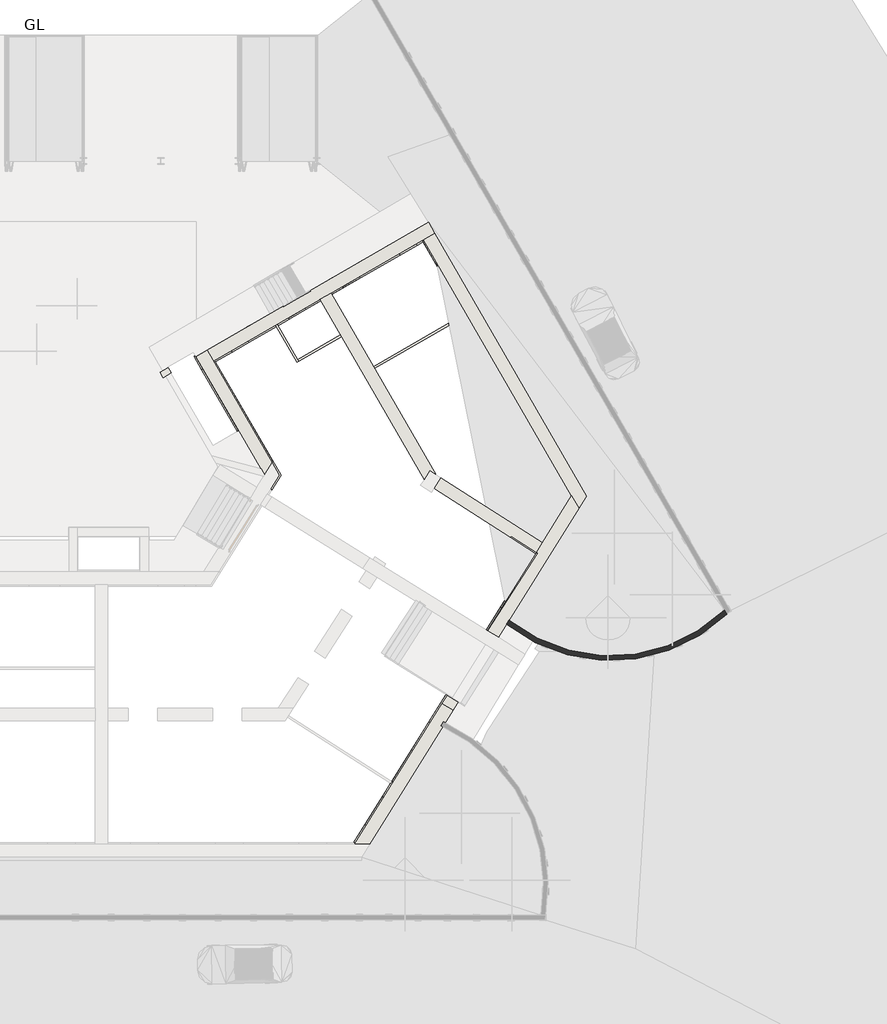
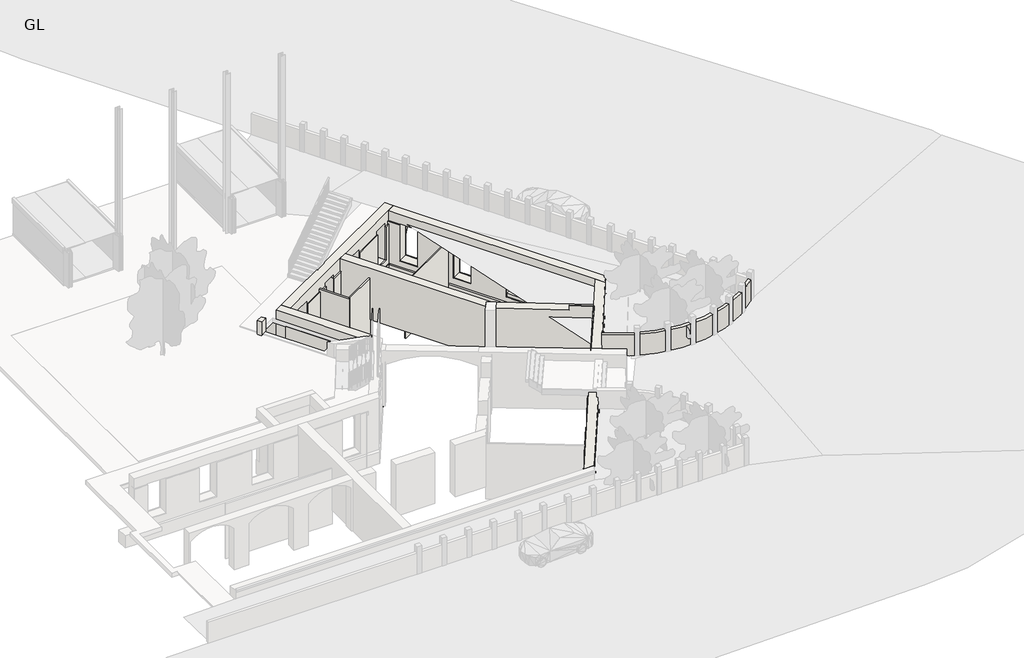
# One storey, part 3 of 6: 38 walls.
"""IFC4 building model written with IfcOpenShell, lengths in millimetres."""

from ifc_helpers import new_model, si_unit, point, frame, frame_2d, origin, origin_with_axes, place, context, project, spatial, polyline, circle_curve, trimmed, segment, composite_curve, outline, extrude, faceted_brep, element, save

model = new_model("IFC4")

# Units and contexts
model_context = context("Model", 3, world=origin())
ifc_project = project(units=[si_unit("LENGTHUNIT", "METRE", prefix="MILLI")], contexts=[model_context])

# Site, building, storey
site = spatial("IfcSite", under=ifc_project)
building = spatial("IfcBuilding", under=site)
storey = spatial("IfcBuildingStorey", under=building, Name="GL", Elevation=0.0)

# Walls
placement = place(None, origin())
element("IfcWall", 1, ObjectType="Wall-Partn_12P-70MStd-12P", at=placement, inside=storey, context=model_context, shape_type="SweptSolid", body=[
    extrude(outline(polyline([(11606.7087824, 19381.6879919), (15958.844634, 21894.3947974), (16006.344634, 21812.122384), (11654.2087824, 19299.4155785), (11606.7087824, 19381.6879919)])), frame((0.0, 0.0, -4000.0), z_axis=(0.0, 0.0, 1.0), x_axis=(1.0, 0.0, 0.0)), (0.0, 0.0, 1.0), 4000.0),
])
element("IfcWall", 2, ObjectType="Wall-Partn_12P-70MStd-12P", at=placement, inside=storey, context=model_context, shape_type="Brep", body=[
    faceted_brep([(6961.6586807, 21292.6884567, -211.0), (6961.6586807, 21292.6884567, -4000.0), (7947.2081317, 19585.666734, -4000.0), (7947.2081317, 19585.666734, 0.0), (6924.1586807, 21357.640362, 0.0), (6924.1586807, 21357.640362, -211.0), (7043.931094, 21340.1884567, -4000.0), (7043.931094, 21340.1884567, -211.0), (7006.431094, 21405.140362, -211.0), (7006.431094, 21405.140362, 0.0), (7981.9805451, 19715.4391474, 0.0), (8029.4805451, 19633.166734, 0.0), (8029.4805451, 19633.166734, -4000.0), (7981.9805451, 19715.4391474, -4000.0)], [[[0, 1, 2, 3, 4, 5]], [[6, 7, 8, 9, 10, 11, 12, 13]], [[2, 1, 6, 13, 12]], [[4, 3, 11, 10, 9]], [[3, 2, 12, 11]], [[5, 8, 7, 0]], [[0, 7, 6, 1]], [[5, 4, 9, 8]]]),
])
element("IfcWall", 3, ObjectType="Wall-Partn_12P-70MStd-12P", at=placement, inside=storey, context=model_context, shape_type="SweptSolid", body=[
    extrude(outline(polyline([(10083.8929912, 20819.2823128), (8029.4805451, 19633.166734), (7981.9805451, 19715.4391474), (10036.3929912, 20901.5547262), (10083.8929912, 20819.2823128)])), frame((0.0, 0.0, -4000.0), z_axis=(0.0, 0.0, 1.0), x_axis=(1.0, 0.0, 0.0)), (0.0, 0.0, 1.0), 4000.0),
])
element("IfcWall", 4, ObjectType="Wall-Ext_215Bwk", at=placement, inside=storey, context=model_context, shape_type="SweptSolid", body=[
    extrude(outline(composite_curve([segment(polyline([(17956.3097907, 7100.3203589), (18070.7151122, 7283.9637916)]), True, "CONTINUOUS"), segment(trimmed(circle_curve(frame_2d((22935.6449008, 13411.501926)), 7823.9545906), [point((18070.7151122, 7283.9637916))], [point((28356.948433, 7770.2490999))], True, "CARTESIAN"), True, "CONTINUOUS"), segment(polyline([(28356.948433, 7770.2490999), (28467.5827329, 7578.6248715)]), True, "CONTINUOUS"), segment(trimmed(circle_curve(frame_2d((22935.6449008, 13411.501926)), 8038.9545906), [point((28467.5827329, 7578.6248715))], [point((17956.3097907, 7100.3203589))], False, "CARTESIAN"), True, "CONTINUOUS")], self_intersect=False)), origin_with_axes(), (0.0, 0.0, 1.0), 1500.0),
])
element("IfcWall", 5, ObjectType="Wall-Fnd_750Con_Footing", at=placement, inside=storey, context=model_context, shape_type="Brep", body=[
    faceted_brep([(3404.5847078, 19239.0108409, -4000.0), (4054.1037606, 19614.0108409, -4000.0), (6961.6586807, 21292.6884567, -4000.0), (7043.931094, 21340.1884567, -4000.0), (13970.094634, 25339.0108409, -4000.0), (14619.6136868, 25714.0108409, -4000.0), (14619.6136868, 25714.0108409, -3140.0), (13970.094634, 25339.0108409, -3140.0), (4054.1037606, 19614.0108409, -3140.0), (3404.5847078, 19239.0108409, -3140.0), (14244.6136868, 26363.5298938, -4000.0), (3029.5847078, 19888.5298938, -4000.0), (3029.5847078, 19888.5298938, -3140.0), (14244.6136868, 26363.5298938, -3140.0)], [[[0, 1, 2, 3, 4, 5, 6, 7, 8, 9]], [[10, 11, 12, 13]], [[5, 10, 13, 6]], [[9, 8, 7, 6, 13, 12]], [[11, 0, 9, 12]], [[5, 4, 3, 2, 1, 0, 11, 10]]]),
    faceted_brep([(14035.0465393, 25376.5108409, -211.0), (13970.094634, 25339.0108409, -211.0), (13692.8644056, 25178.9518939, -211.0), (13692.8644056, 25178.9518939, -2600.0), (12861.480018, 24698.9518939, -2600.0), (12861.480018, 24698.9518939, -211.0), (10990.5069482, 23618.7450885, -211.0), (10990.5069482, 23618.7450885, -2600.0), (10159.1225606, 23138.7450885, -2600.0), (10159.1225606, 23138.7450885, -211.0), (8392.4307369, 22118.7450885, -211.0), (8392.4307369, 22118.7450885, -2811.0), (7561.0463492, 21638.7450885, -2811.0), (7561.0463492, 21638.7450885, -211.0), (7043.931094, 21340.1884567, -211.0), (6961.6586807, 21292.6884567, -211.0), (5673.4691666, 20548.9518939, -211.0), (5673.4691666, 20548.9518939, -2600.0), (4842.0847789, 20068.9518939, -2600.0), (4842.0847789, 20068.9518939, -211.0), (4054.1037606, 19614.0108409, -211.0), (3989.1518554, 19576.5108409, -211.0), (3989.1518554, 19576.5108409, -3000.0), (4054.1037606, 19614.0108409, -3000.0), (13970.094634, 25339.0108409, -3000.0), (14035.0465393, 25376.5108409, -3000.0), (13317.8644056, 25828.4709468, -211.0), (13660.0465393, 26026.0298938, -211.0), (13660.0465393, 26026.0298938, -3000.0), (3614.1518554, 20226.0298938, -3000.0), (3614.1518554, 20226.0298938, -211.0), (4467.0847789, 20718.4709468, -211.0), (4467.0847789, 20718.4709468, -2600.0), (5298.4691666, 21198.4709468, -2600.0), (5298.4691666, 21198.4709468, -211.0), (7186.0463492, 22288.2641413, -211.0), (7186.0463492, 22288.2641413, -2811.0), (8017.4307369, 22768.2641413, -2811.0), (8017.4307369, 22768.2641413, -211.0), (9784.1225606, 23788.2641413, -211.0), (9784.1225606, 23788.2641413, -2600.0), (10615.5069482, 24268.2641413, -2600.0), (10615.5069482, 24268.2641413, -211.0), (12486.480018, 25348.4709468, -211.0), (12486.480018, 25348.4709468, -2600.0), (13317.8644056, 25828.4709468, -2600.0)], [[[0, 1, 2, 3, 4, 5, 6, 7, 8, 9, 10, 11, 12, 13, 14, 15, 16, 17, 18, 19, 20, 21, 22, 23, 24, 25]], [[26, 27, 28, 29, 30, 31, 32, 33, 34, 35, 36, 37, 38, 39, 40, 41, 42, 43, 44, 45]], [[25, 24, 23, 22, 29, 28]], [[0, 25, 28, 27]], [[22, 21, 30, 29]], [[2, 1, 0, 27, 26]], [[3, 2, 26, 45]], [[4, 3, 45, 44]], [[5, 4, 44, 43]], [[6, 5, 43, 42]], [[7, 6, 42, 41]], [[8, 7, 41, 40]], [[9, 8, 40, 39]], [[10, 9, 39, 38]], [[11, 10, 38, 37]], [[12, 11, 37, 36]], [[13, 12, 36, 35]], [[16, 15, 14, 13, 35, 34]], [[17, 16, 34, 33]], [[18, 17, 33, 32]], [[19, 18, 32, 31]], [[21, 20, 19, 31, 30]]]),
])
element("IfcWall", 6, ObjectType="Wall-Fnd_750Con_Footing", at=placement, inside=storey, context=model_context, shape_type="Brep", body=[
    faceted_brep([(21012.6093807, 13141.0174865, 0.0), (20970.1071545, 13214.6335018, 0.0), (20470.3213322, 14080.2879389, 0.0), (20470.3213322, 14080.2879389, -2543.3553846), (19762.6284634, 15306.0479439, -2543.3553846), (19762.6284634, 15306.0479439, 0.0), (18612.6707102, 17297.8331988, 0.0), (18612.6707102, 17297.8331988, -2669.7609259), (17980.2784293, 18393.1687596, -2669.7609259), (17980.2784293, 18393.1687596, 0.0), (16780.3546143, 20471.4977725, 0.0), (16780.3546143, 20471.4977725, -2559.434172), (16174.9876446, 21520.0241213, -2559.434172), (16174.9876446, 21520.0241213, 0.0), (16006.344634, 21812.122384, 0.0), (15958.844634, 21894.3947974, 0.0), (14966.9562362, 23612.3958978, 0.0), (14966.9562362, 23612.3958978, -2603.7391977), (14339.9690175, 24698.3696162, -2603.7391977), (14339.9690175, 24698.3696162, 0.0), (13932.594634, 25403.9627462, 0.0), (13932.594634, 25403.9627462, -211.0), (13970.094634, 25339.0108409, -211.0), (13970.094634, 25339.0108409, -3000.0), (20970.1071545, 13214.6335018, -3000.0), (21012.6093807, 13141.0174865, -3000.0), (21119.840385, 14455.2879389, 0.0), (21462.08113, 13862.5095801, 0.0), (21462.08113, 13862.5095801, -3000.0), (14619.6136868, 25714.0108409, -3000.0), (14619.6136868, 25714.0108409, -211.0), (14582.1136868, 25778.9627462, -211.0), (14582.1136868, 25778.9627462, 0.0), (14989.4880704, 25073.3696162, 0.0), (14989.4880704, 25073.3696162, -2603.7391977), (15616.475289, 23987.3958978, -2603.7391977), (15616.475289, 23987.3958978, 0.0), (16824.5066974, 21895.0241213, 0.0), (16824.5066974, 21895.0241213, -2559.434172), (17429.8736672, 20846.4977725, -2559.434172), (17429.8736672, 20846.4977725, 0.0), (18629.7974822, 18768.1687596, 0.0), (18629.7974822, 18768.1687596, -2669.7609259), (19262.1897631, 17672.8331988, -2669.7609259), (19262.1897631, 17672.8331988, 0.0), (20412.1475162, 15681.0479439, 0.0), (20412.1475162, 15681.0479439, -2543.3553846), (21119.840385, 14455.2879389, -2543.3553846), (14035.0465393, 25376.5108409, -3000.0), (14035.0465393, 25376.5108409, -211.0)], [[[0, 1, 2, 3, 4, 5, 6, 7, 8, 9, 10, 11, 12, 13, 14, 15, 16, 17, 18, 19, 20, 21, 22, 23, 24, 25]], [[26, 27, 28, 29, 30, 31, 32, 33, 34, 35, 36, 37, 38, 39, 40, 41, 42, 43, 44, 45, 46, 47]], [[0, 25, 28, 27]], [[25, 24, 23, 48, 29, 28]], [[22, 49, 30, 29, 48, 23]], [[21, 20, 32, 31]], [[2, 1, 0, 27, 26]], [[3, 2, 26, 47]], [[4, 3, 47, 46]], [[5, 4, 46, 45]], [[6, 5, 45, 44]], [[7, 6, 44, 43]], [[8, 7, 43, 42]], [[9, 8, 42, 41]], [[10, 9, 41, 40]], [[11, 10, 40, 39]], [[12, 11, 39, 38]], [[13, 12, 38, 37]], [[16, 15, 14, 13, 37, 36]], [[17, 16, 36, 35]], [[18, 17, 35, 34]], [[19, 18, 34, 33]], [[20, 19, 33, 32]], [[31, 30, 49, 22, 21]]]),
    faceted_brep([(13970.094634, 25339.0108409, -4000.0), (15958.844634, 21894.3947974, -4000.0), (16006.344634, 21812.122384, -4000.0), (20970.1071545, 13214.6335018, -4000.0), (21395.129417, 12478.4733487, -4000.0), (21395.129417, 12478.4733487, -3470.0), (21395.129417, 12478.4733487, -3140.0), (13970.094634, 25339.0108409, -3140.0), (21844.6011663, 13199.9654424, -4000.0), (14619.6136868, 25714.0108409, -4000.0), (14619.6136868, 25714.0108409, -3470.0), (14619.6136868, 25714.0108409, -3140.0), (21844.6011663, 13199.9654424, -3140.0)], [[[0, 1, 2, 3, 4, 5, 6, 7]], [[8, 9, 10, 11, 12]], [[4, 8, 12, 6, 5]], [[7, 6, 12, 11]], [[9, 0, 7, 11, 10]], [[4, 3, 2, 1, 0, 9, 8]]]),
])
element("IfcWall", 7, ObjectType="Wall-Fnd_750Con_Footing", at=placement, inside=storey, context=model_context, shape_type="Brep", body=[
    faceted_brep([(7179.2651267, 14201.072573, -4000.0), (4054.1037606, 19614.0108409, -4000.0), (4054.1037606, 19614.0108409, -3140.0), (7179.2651267, 14201.072573, -3140.0), (3404.5847078, 19239.0108409, -4000.0), (6304.4233417, 14216.3429932, -4000.0), (6729.1371107, 13480.7171666, -4000.0), (6729.1371107, 13480.7171666, -3470.0), (6729.1371107, 13480.7171666, -3140.0), (3404.5847078, 19239.0108409, -3140.0), (3404.5847078, 19239.0108409, -3470.0)], [[[0, 1, 2, 3]], [[4, 5, 6, 7, 8, 9, 10]], [[1, 0, 6, 5, 4]], [[6, 0, 3, 8, 7]], [[3, 2, 9, 8]], [[1, 4, 10, 9, 2]]]),
    faceted_brep([(4054.1037606, 19614.0108409, -211.0), (6797.0227346, 14863.135817, -211.0), (6797.0227346, 14863.135817, -3000.0), (4054.1037606, 19614.0108409, -3000.0), (6346.8947186, 14142.7804105, -211.0), (6304.4233417, 14216.3429932, -211.0), (3404.5847078, 19239.0108409, -211.0), (3404.5847078, 19239.0108409, -3000.0), (6304.4233417, 14216.3429932, -3000.0), (6346.8947186, 14142.7804105, -3000.0), (3989.1518554, 19576.5108409, -211.0), (3989.1518554, 19576.5108409, -3000.0)], [[[0, 1, 2, 3]], [[4, 5, 6, 7, 8, 9]], [[1, 0, 10, 6, 5, 4]], [[1, 4, 9, 2]], [[3, 2, 9, 8, 7, 11]], [[6, 10, 0, 3, 11, 7]]]),
])
element("IfcWall", 8, ObjectType="Wall-Fnd_750Con_Footing", at=placement, inside=storey, context=model_context, shape_type="Brep", body=[
    faceted_brep([(11195.6159284, -2475.3807197, -2600.0), (12032.3314751, -1132.2848466, -2600.0), (12032.3314751, -1132.2848466, 0.0), (12425.8715825, -500.5742297, 0.0), (12476.1074884, -419.9355489, 0.0), (13416.4188292, 1089.4523025, 0.0), (13416.4188292, 1089.4523025, -2600.0), (14253.1343759, 2432.5481755, -2600.0), (14253.1343759, 2432.5481755, 0.0), (15347.8762093, 4189.8278679, 0.0), (15653.4121125, 4680.2741279, -2250.8800306), (15653.4121125, 4680.2741279, -3000.0), (10660.1123118, -3334.9711746, -3000.0), (10660.1123118, -3334.9711746, 0.0), (11195.6159284, -2475.3807197, 0.0), (12668.9088004, -1528.8567932, -2600.0), (11832.1932537, -2871.9526662, -2600.0), (11832.1932537, -2871.9526662, 0.0), (11543.7441623, -3334.9711746, 0.0), (11543.7441623, -3334.9711746, -3000.0), (16289.9894378, 4283.7021814, -3000.0), (16289.9894378, 4283.7021814, -2250.8800306), (15984.4535347, 3793.2559213, 0.0), (14889.7117013, 2035.976229, 0.0), (14889.7117013, 2035.976229, -2600.0), (14052.9961546, 692.8803559, -2600.0), (14052.9961546, 692.8803559, 0.0), (12668.9088004, -1528.8567932, 0.0), (10748.4754968, -3334.9711746, 0.0), (10748.4754968, -3334.9711746, -3000.0)], [[[0, 1, 2, 3, 4, 5, 6, 7, 8, 9, 10, 11, 12, 13, 14]], [[15, 16, 17, 18, 19, 20, 21, 22, 23, 24, 25, 26, 27]], [[18, 28, 13, 12, 29, 19]], [[12, 11, 20, 19, 29]], [[0, 16, 15, 1]], [[1, 15, 27, 2]], [[16, 0, 14, 17]], [[6, 25, 24, 7]], [[7, 24, 23, 8]], [[25, 6, 5, 26]], [[14, 13, 28, 18, 17]], [[9, 8, 23, 22]], [[5, 4, 3, 2, 27, 26]], [[10, 9, 22, 21]], [[11, 10, 21, 20]]]),
    faceted_brep([(16088.717743, 5379.0267664, -3000.0), (16088.717743, 5379.0267664, -2250.8800306), (16397.0963732, 5874.0361722, 0.0), (17655.2916747, 7893.6913866, 0.0), (17655.2916747, 7893.6913866, -2441.9482203), (18492.0072214, 9236.7872597, -2441.9482203), (18492.0072214, 9236.7872597, 0.0), (19745.0761633, 11248.2136412, 0.0), (19745.0761633, 11248.2136412, -2441.9482203), (20581.79171, 12591.3095143, -2441.9482203), (20581.79171, 12591.3095143, 0.0), (20970.1071545, 13214.6335018, 0.0), (20970.1071545, 13214.6335018, -3000.0), (16725.2950684, 4982.4548198, -2250.8800306), (16725.2950684, 4982.4548198, -3000.0), (21395.129417, 12478.4733487, -3000.0), (21395.129417, 12478.4733487, 0.0), (21218.3690353, 12194.7375677, 0.0), (21218.3690353, 12194.7375677, -2441.9482203), (20381.6534886, 10851.6416947, -2441.9482203), (20381.6534886, 10851.6416947, 0.0), (19128.5845467, 8840.2153131, 0.0), (19128.5845467, 8840.2153131, -2441.9482203), (18291.869, 7497.11944, -2441.9482203), (18291.869, 7497.11944, 0.0), (17033.6736986, 5477.4642256, 0.0), (21012.6093807, 13141.0174865, 0.0), (21012.6093807, 13141.0174865, -3000.0)], [[[0, 1, 2, 3, 4, 5, 6, 7, 8, 9, 10, 11, 12]], [[13, 14, 15, 16, 17, 18, 19, 20, 21, 22, 23, 24, 25]], [[11, 26, 16, 15, 27, 12]], [[0, 12, 27, 15, 14]], [[1, 0, 14, 13]], [[2, 1, 13, 25]], [[3, 2, 25, 24]], [[4, 3, 24, 23]], [[5, 4, 23, 22]], [[6, 5, 22, 21]], [[7, 6, 21, 20]], [[8, 7, 20, 19]], [[9, 8, 19, 18]], [[10, 9, 18, 17]], [[11, 10, 17, 16, 26]]]),
    faceted_brep([(20970.1071545, 13214.6335018, -4000.0), (12476.1074884, -419.9355489, -4000.0), (12425.8715825, -500.5742297, -4000.0), (10660.1123118, -3334.9711746, -4000.0), (10660.1123118, -3334.9711746, -3140.0), (20970.1071545, 13214.6335018, -3140.0), (11543.7441623, -3334.9711746, -4000.0), (21395.129417, 12478.4733487, -4000.0), (21395.129417, 12478.4733487, -3140.0), (11543.7441623, -3334.9711746, -3140.0), (11543.7441623, -3334.9711746, -3470.0)], [[[0, 1, 2, 3, 4, 5]], [[6, 7, 8, 9, 10]], [[3, 6, 10, 9, 4]], [[7, 0, 5, 8]], [[5, 4, 9, 8]], [[3, 2, 1, 0, 7, 6]]]),
])
element("IfcWall", 9, ObjectType="Wall-Ret_300Con", at=placement, inside=storey, context=model_context, shape_type="Brep", body=[
    faceted_brep([(1796.7038634, 19340.4183513, -3000.0), (1406.9924317, 19115.4183513, -3000.0), (1406.9924317, 19115.4183513, 1006.051607), (1796.7038634, 19340.4183513, 1006.051607), (1946.7038634, 19080.6107302, -3000.0), (1946.7038634, 19080.6107302, 700.0), (1946.7038634, 19080.6107302, 1006.051607), (1556.9924317, 18855.6107302, 1006.051607), (1556.9924317, 18855.6107302, -3000.0), (1686.8962423, 18930.6107302, -3000.0)], [[[0, 1, 2, 3]], [[4, 5, 6, 7, 8, 9]], [[1, 0, 4, 9, 8]], [[2, 1, 8, 7]], [[3, 2, 7, 6]], [[0, 3, 6, 5, 4]]]),
])
element("IfcWall", 10, ObjectType="Wall-Ret_300Con 2", at=placement, inside=storey, context=model_context, shape_type="SweptSolid", body=[
    extrude(outline(polyline([(0.0, 0.0), (279.4555074, 0.0), (1746.1486421, -2758.4485951), (0.0, -2758.4485951), (0.0, 0.0)])), frame((17778.9010724, 7385.1256333, -2758.4485951), z_axis=(0.5386867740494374, 0.8425061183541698, 0.0), x_axis=(0.8425061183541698, -0.5386867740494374, 0.0)), (0.0, 0.0, 1.0), 200.0),
])
element("IfcWall", 11, ObjectType="Wall-Ret_300Con 2", at=placement, inside=storey, context=model_context, shape_type="SweptSolid", body=[
    extrude(outline(polyline([(0.0, 0.0), (265.4050039, 0.0), (1708.2251898, -2766.3292278), (0.0, -2766.3292278), (0.0, 0.0)])), frame((18890.2949407, 9166.9157795, -2766.3292278), z_axis=(0.5287625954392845, 0.8487697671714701, 0.0), x_axis=(0.8487697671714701, -0.5287625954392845, 0.0)), (0.0, 0.0, 1.0), 200.0),
])
element("IfcWall", 12, ObjectType="Wall-Ret_300Con 2", at=placement, inside=storey, context=model_context, shape_type="SweptSolid", body=[
    extrude(outline(polyline([(0.0, 0.0), (136.0639676, 0.0), (1657.4952434, -2763.1736694), (0.0, -2763.1736694), (0.0, 0.0)])), frame((19789.1913529, 10609.8243837, -2763.1736694), z_axis=(0.5287625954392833, 0.8487697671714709, 0.0), x_axis=(0.8487697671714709, -0.5287625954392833, 0.0)), (0.0, 0.0, 1.0), 200.0),
])
element("IfcWall", 13, ObjectType="Wall-Ret_300Con 2", at=placement, inside=storey, context=model_context, shape_type="SweptSolid", body=[
    extrude(outline(polyline([(0.0, 0.0), (123.9723571, 0.0), (1657.4952434, -2785.1340562), (0.0, -2785.1340562), (0.0, 0.0)])), frame((20980.0794293, 12521.4380341, -2785.1340562), z_axis=(0.5287625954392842, 0.8487697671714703, 0.0), x_axis=(0.8487697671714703, -0.5287625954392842, 0.0)), (0.0, 0.0, 1.0), 200.0),
])
element("IfcWall", 14, ObjectType="Wall-Ret_300Con 2", at=placement, inside=storey, context=model_context, shape_type="SweptSolid", body=[
    extrude(outline(polyline([(-2785.1340562, 21403.6990249), (-2785.1340562, 21630.1389426), (0.0, 23390.9373433), (0.0, 21403.6990249), (-2785.1340562, 21403.6990249)])), frame((0.0, 13101.4322483, 0.0), z_axis=(0.0, 1.0, 0.0), x_axis=(0.0, 0.0, 1.0)), (0.0, 0.0, 1.0), 200.0),
])
element("IfcWall", 15, ObjectType="Wall-Ret_300Con 2", at=placement, inside=storey, context=model_context, shape_type="SweptSolid", body=[
    extrude(outline(polyline([(0.0, 0.0), (254.5338017, 0.0), (1742.5233286, -2785.1), (0.0, -2785.1), (0.0, 0.0)])), frame((21028.8445928, 13862.8972744, -2785.1), z_axis=(-0.499999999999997, 0.8660254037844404, 0.0), x_axis=(0.8660254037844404, 0.499999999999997, 0.0)), (0.0, 0.0, 1.0), 200.0),
])
element("IfcWall", 16, ObjectType="Wall-Ret_300Con 2", at=placement, inside=storey, context=model_context, shape_type="SweptSolid", body=[
    extrude(outline(polyline([(0.0, 0.0), (254.5338017, 0.0), (1742.5233286, -2785.1), (0.0, -2785.1), (0.0, 0.0)])), frame((19958.8149493, 15716.2429825, -2785.1), z_axis=(-0.4999999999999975, 0.86602540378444, 0.0), x_axis=(0.86602540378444, 0.4999999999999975, 0.0)), (0.0, 0.0, 1.0), 200.0),
])
element("IfcWall", 17, ObjectType="Wall-Ret_300Con 2", at=placement, inside=storey, context=model_context, shape_type="SweptSolid", body=[
    extrude(outline(polyline([(0.0, 0.0), (254.5338018, 0.0), (1742.5233286, -2785.1), (0.0, -2785.1), (0.0, 0.0)])), frame((19188.2551371, 17050.8917274, -2785.1), z_axis=(-0.49999999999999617, 0.866025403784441, 0.0), x_axis=(0.866025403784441, 0.49999999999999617, 0.0)), (0.0, 0.0, 1.0), 200.0),
])
element("IfcWall", 18, ObjectType="Wall-Ret_300Con 2", at=placement, inside=storey, context=model_context, shape_type="SweptSolid", body=[
    extrude(outline(polyline([(0.0, 0.0), (254.5338018, 0.0), (1742.5233286, -2785.1), (0.0, -2785.1), (0.0, 0.0)])), frame((18150.7298232, 18847.9382852, -2785.1), z_axis=(-0.4999999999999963, 0.8660254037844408, 0.0), x_axis=(0.8660254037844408, 0.4999999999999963, 0.0)), (0.0, 0.0, 1.0), 200.0),
])
element("IfcWall", 19, ObjectType="Wall-Ret_300Con 2", at=placement, inside=storey, context=model_context, shape_type="SweptSolid", body=[
    extrude(outline(polyline([(0.0, 0.0), (254.5338017, 0.0), (1742.5233286, -2785.1), (0.0, -2785.1), (0.0, 0.0)])), frame((17376.0736174, 20189.6821922, -2785.1), z_axis=(-0.49999999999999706, 0.8660254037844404, 0.0), x_axis=(0.8660254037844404, 0.49999999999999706, 0.0)), (0.0, 0.0, 1.0), 200.0),
])
element("IfcWall", 20, ObjectType="Wall-Ret_300Con 2", at=placement, inside=storey, context=model_context, shape_type="SweptSolid", body=[
    extrude(outline(polyline([(0.0, 0.0), (254.5338017, 0.0), (1742.5233287, -2785.1), (0.0, -2785.1), (0.0, 0.0)])), frame((16303.6329335, 22047.2039447, -2785.1), z_axis=(-0.4999999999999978, 0.8660254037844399, 0.0), x_axis=(0.8660254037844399, 0.4999999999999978, 0.0)), (0.0, 0.0, 1.0), 200.0),
])
element("IfcWall", 21, ObjectType="Wall-Ret_300Con 2", at=placement, inside=storey, context=model_context, shape_type="SweptSolid", body=[
    extrude(outline(polyline([(0.0, 0.0), (254.5338018, 0.0), (1742.5233286, -2785.1), (0.0, -2785.1), (0.0, 0.0)])), frame((15567.6801477, 23321.9115617, -2785.1), z_axis=(-0.499999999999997, 0.8660254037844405, 0.0), x_axis=(0.8660254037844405, 0.499999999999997, 0.0)), (0.0, 0.0, 1.0), 200.0),
])
element("IfcWall", 22, ObjectType="Wall-Ret_300Con 2", at=placement, inside=storey, context=model_context, shape_type="SweptSolid", body=[
    extrude(outline(polyline([(0.0, 0.0), (254.5338017, 0.0), (1742.5233286, -2785.1), (0.0, -2785.1), (0.0, 0.0)])), frame((14507.3541604, 25158.4500443, -2785.1), z_axis=(-0.5000000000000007, 0.8660254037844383, 0.0), x_axis=(0.8660254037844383, 0.5000000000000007, 0.0)), (0.0, 0.0, 1.0), 200.0),
])
element("IfcWall", 23, ObjectType="Wall-Ret_300Con 2", at=placement, inside=storey, context=model_context, shape_type="SweptSolid", body=[
    extrude(outline(polyline([(-366.1431166, 0.0), (0.0, 0.0), (2150.9692318, -2785.1), (-366.1431166, -2785.1), (-366.1431166, 0.0)])), frame((14298.2913169, 26173.1142327, -2785.1), z_axis=(-0.9702957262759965, 0.24192189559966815, 0.0), x_axis=(0.24192189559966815, 0.9702957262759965, 0.0)), (0.0, 0.0, 1.0), 200.0),
])
element("IfcWall", 24, ObjectType="Wall-Ret_300Con 2", at=placement, inside=storey, context=model_context, shape_type="SweptSolid", body=[
    extrude(outline(polyline([(0.0, 0.0), (0.0, -2785.1), (-1800.0, -2785.1), (-252.7222223, 0.0), (0.0, 0.0)])), frame((13812.9055231, 25681.2703673, -2785.1), z_axis=(0.8660254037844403, 0.4999999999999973, 0.0), x_axis=(0.4999999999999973, -0.8660254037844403, 0.0)), (0.0, 0.0, 1.0), 200.0),
])
element("IfcWall", 25, ObjectType="Wall-Ret_300Con 2", at=placement, inside=storey, context=model_context, shape_type="SweptSolid", body=[
    extrude(outline(polyline([(0.0, 0.0), (0.0, -2785.1), (-1800.0, -2785.1), (-252.7222223, 0.0), (0.0, 0.0)])), frame((12323.3418286, 24821.2703673, -2785.1), z_axis=(0.8660254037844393, 0.49999999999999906, 0.0), x_axis=(0.49999999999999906, -0.8660254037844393, 0.0)), (0.0, 0.0, 1.0), 200.0),
])
element("IfcWall", 26, ObjectType="Wall-Ret_300Con 2", at=placement, inside=storey, context=model_context, shape_type="SweptSolid", body=[
    extrude(outline(polyline([(0.0, 0.0), (0.0, -2785.1), (-1800.0, -2785.1), (-252.7222223, 0.0), (0.0, 0.0)])), frame((11041.624231, 24081.2703673, -2785.1), z_axis=(0.8660254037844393, 0.499999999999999, 0.0), x_axis=(0.499999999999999, -0.8660254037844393, 0.0)), (0.0, 0.0, 1.0), 200.0),
])
element("IfcWall", 27, ObjectType="Wall-Ret_300Con 2", at=placement, inside=storey, context=model_context, shape_type="SweptSolid", body=[
    extrude(outline(polyline([(0.0, 0.0), (0.0, -2785.1), (-1800.0, -2785.1), (-252.7222222, 0.0), (0.0, 0.0)])), frame((9620.9843712, 23261.0635619, -2785.1), z_axis=(0.8660254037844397, 0.49999999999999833, 0.0), x_axis=(0.49999999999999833, -0.8660254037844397, 0.0)), (0.0, 0.0, 1.0), 200.0),
])
element("IfcWall", 28, ObjectType="Wall-Ret_300Con 2", at=placement, inside=storey, context=model_context, shape_type="SweptSolid", body=[
    extrude(outline(polyline([(0.0, 0.0), (0.0, -2785.1), (-1800.0, -2785.1), (-252.7222222, 0.0), (0.0, 0.0)])), frame((8443.1898221, 22581.0635619, -2785.1), z_axis=(0.8660254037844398, 0.499999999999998, 0.0), x_axis=(0.499999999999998, -0.8660254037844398, 0.0)), (0.0, 0.0, 1.0), 200.0),
])
element("IfcWall", 29, ObjectType="Wall-Ret_300Con 2", at=placement, inside=storey, context=model_context, shape_type="SweptSolid", body=[
    extrude(outline(polyline([(0.0, 0.0), (0.0, -2785.1), (-1800.0, -2785.1), (-252.7222222, 0.0), (0.0, 0.0)])), frame((7022.9081599, 21761.0635619, -2785.1), z_axis=(0.8660254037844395, 0.49999999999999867, 0.0), x_axis=(0.49999999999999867, -0.8660254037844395, 0.0)), (0.0, 0.0, 1.0), 200.0),
])
element("IfcWall", 30, ObjectType="Wall-Ret_300Con 2", at=placement, inside=storey, context=model_context, shape_type="SweptSolid", body=[
    extrude(outline(polyline([(0.0, 0.0), (0.0, -2785.1), (-1800.0, -2785.1), (-252.7222222, 0.0), (0.0, 0.0)])), frame((5678.2811883, 20984.7428179, -2785.1), z_axis=(0.8660254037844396, 0.49999999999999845, 0.0), x_axis=(0.49999999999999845, -0.8660254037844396, 0.0)), (0.0, 0.0, 1.0), 200.0),
])
element("IfcWall", 31, ObjectType="Wall-Ret_300Con 2", at=placement, inside=storey, context=model_context, shape_type="SweptSolid", body=[
    extrude(outline(polyline([(0.0, 0.0), (0.0, -2574.1), (-1800.0, -2574.1), (-252.7222223, 0.0), (0.0, 0.0)])), frame((4303.9465896, 20191.2703673, -2785.1), z_axis=(0.8660254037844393, 0.4999999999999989, 0.0), x_axis=(0.4999999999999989, -0.8660254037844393, 0.0)), (0.0, 0.0, 1.0), 200.0),
])
element("IfcWall", 32, ObjectType="Wall-Ret_300Con 2", at=placement, inside=storey, context=model_context, shape_type="SweptSolid", body=[
    extrude(outline(polyline([(0.0, 0.0), (0.0, -2574.1), (-1800.0, -2574.1), (-300.0000001, -85.1), (-268.4814815, 0.0), (0.0, 0.0)])), frame((3333.9981373, 19631.2703673, -2785.1), z_axis=(0.8660254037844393, 0.49999999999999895, 0.0), x_axis=(0.49999999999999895, -0.8660254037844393, 0.0)), (0.0, 0.0, 1.0), 200.0),
])
element("IfcWall", 33, ObjectType="ug wall", at=placement, inside=storey, context=model_context, shape_type="Brep", body=[
    faceted_brep([(6752.009933, 14791.1002763, -3000.0), (6556.6518554, 15129.4703925, -3000.0), (6556.6518554, 15129.4703925, -890.0), (6051.6518554, 16004.1560503, -890.0), (6051.6518554, 16004.1560503, -3000.0), (3951.6518554, 19641.4627462, -3000.0), (3651.6518554, 20161.0779885, -3000.0), (3651.6518554, 20161.0779885, 700.0), (6752.009933, 14791.1002763, 700.0), (6037.0366131, 14829.4703925, -3000.0), (6391.9075202, 14214.8159512, -3000.0), (6391.9075202, 14214.8159512, -211.0), (6391.9075202, 14214.8159512, 700.0), (3132.0366131, 19861.0779885, 700.0), (3132.0366131, 19861.0779885, -3000.0), (5532.0366131, 15704.1560503, -3000.0), (5532.0366131, 15704.1560503, -890.0), (6037.0366131, 14829.4703925, -890.0)], [[[0, 1, 2, 3, 4, 5, 6, 7, 8]], [[9, 10, 11, 12, 13, 14, 15, 16, 17]], [[0, 10, 9, 1]], [[14, 6, 5, 4, 15]], [[10, 0, 8, 12, 11]], [[6, 14, 13, 7]], [[8, 7, 13, 12]], [[17, 2, 1, 9]], [[2, 17, 16, 3]], [[3, 16, 15, 4]]]),
])
element("IfcWall", 34, ObjectType="ug wall", at=placement, inside=storey, context=model_context, shape_type="Brep", body=[
    faceted_brep([(3951.6518554, 19641.4627462, -3000.0), (13997.5465393, 25441.4627462, -3000.0), (14517.1617815, 25741.4627462, -3000.0), (14517.1617815, 25741.4627462, 700.0), (3951.6518554, 19641.4627462, 700.0), (4804.5847789, 20133.9037992, 0.0), (5635.9691666, 20613.9037992, 0.0), (5635.9691666, 20613.9037992, -2600.0), (4804.5847789, 20133.9037992, -2600.0), (7523.5463492, 21703.6969938, 0.0), (8354.9307369, 22183.6969938, 0.0), (8354.9307369, 22183.6969938, -2600.0), (7523.5463492, 21703.6969938, -2600.0), (10121.6225606, 23203.6969938, 0.0), (10953.0069482, 23683.6969938, 0.0), (10953.0069482, 23683.6969938, -2600.0), (10121.6225606, 23203.6969938, -2600.0), (12823.980018, 24763.9037992, 0.0), (13655.3644056, 25243.9037992, 0.0), (13655.3644056, 25243.9037992, -2600.0), (12823.980018, 24763.9037992, -2600.0), (14217.1617815, 26261.0779885, -3000.0), (3651.6518554, 20161.0779885, -3000.0), (3651.6518554, 20161.0779885, 700.0), (14217.1617815, 26261.0779885, 700.0), (5335.9691666, 21133.5190415, 0.0), (4504.5847789, 20653.5190415, 0.0), (4504.5847789, 20653.5190415, -2600.0), (5335.9691666, 21133.5190415, -2600.0), (8054.9307369, 22703.312236, 0.0), (7223.5463492, 22223.312236, 0.0), (7223.5463492, 22223.312236, -2600.0), (8054.9307369, 22703.312236, -2600.0), (10653.0069482, 24203.312236, 0.0), (9821.6225606, 23723.312236, 0.0), (9821.6225606, 23723.312236, -2600.0), (10653.0069482, 24203.312236, -2600.0), (13355.3644056, 25763.5190415, 0.0), (12523.980018, 25283.5190415, 0.0), (12523.980018, 25283.5190415, -2600.0), (13355.3644056, 25763.5190415, -2600.0)], [[[0, 1, 2, 3, 4], [5, 6, 7, 8], [9, 10, 11, 12], [13, 14, 15, 16], [17, 18, 19, 20]], [[21, 22, 23, 24], [25, 26, 27, 28], [29, 30, 31, 32], [33, 34, 35, 36], [37, 38, 39, 40]], [[22, 0, 4, 23]], [[2, 1, 0, 22, 21]], [[6, 5, 26, 25]], [[7, 6, 25, 28]], [[8, 7, 28, 27]], [[5, 8, 27, 26]], [[10, 9, 30, 29]], [[11, 10, 29, 32]], [[12, 11, 32, 31]], [[9, 12, 31, 30]], [[14, 13, 34, 33]], [[15, 14, 33, 36]], [[16, 15, 36, 35]], [[13, 16, 35, 34]], [[18, 17, 38, 37]], [[19, 18, 37, 40]], [[20, 19, 40, 39]], [[17, 20, 39, 38]], [[2, 21, 24, 3]], [[4, 3, 24, 23]]]),
])
element("IfcWall", 35, ObjectType="ug wall", at=placement, inside=storey, context=model_context, shape_type="Brep", body=[
    faceted_brep([(13997.5465393, 25441.4627462, -3000.0), (21057.5565557, 13213.1666959, -3000.0), (21397.5743657, 12624.2385734, -3000.0), (21397.5743657, 12624.2385734, 700.0), (21057.5565557, 13213.1666959, 700.0), (13997.5465393, 25441.4627462, 700.0), (14404.9209228, 24735.8696162, 0.5318271), (15031.9081415, 23649.8958978, 0.5318271), (15031.9081415, 23649.8958978, -2603.7391977), (14404.9209228, 24735.8696162, -2603.7391977), (16239.9395499, 21557.5241213, 23.2246451), (16845.3065196, 20508.9977725, 23.2246451), (16845.3065196, 20508.9977725, -2559.434172), (16239.9395499, 21557.5241213, -2559.434172), (18045.2303346, 18430.6687596, -19.9997702), (18677.6226155, 17335.3331988, -19.9997702), (18677.6226155, 17335.3331988, -2429.7609259), (18045.2303346, 18430.6687596, -2429.7609259), (19827.5803686, 15343.5479439, -4.0227338), (20535.2732375, 14117.7879389, -4.0227338), (20535.2732375, 14117.7879389, -2543.3553846), (19827.5803686, 15343.5479439, -2543.3553846), (21757.1517651, 13201.4322483, -3000.0), (14517.1617815, 25741.4627462, -3000.0), (14517.1617815, 25741.4627462, 700.0), (21757.1517651, 13201.4322483, 700.0), (15551.5233837, 23949.8958978, 0.5318271), (14924.5361651, 25035.8696162, 0.5318271), (14924.5361651, 25035.8696162, -2603.7391977), (15551.5233837, 23949.8958978, -2603.7391977), (17364.9217619, 20808.9977725, 23.2246451), (16759.5547921, 21857.5241213, 23.2246451), (16759.5547921, 21857.5241213, -2559.434172), (17364.9217619, 20808.9977725, -2559.434172), (19197.2378578, 17635.3331988, -19.9997702), (18564.8455769, 18730.6687596, -19.9997702), (18564.8455769, 18730.6687596, -2429.7609259), (19197.2378578, 17635.3331988, -2429.7609259), (21054.8884797, 14417.7879389, -4.0227338), (20347.1956109, 15643.5479439, -4.0227338), (20347.1956109, 15643.5479439, -2543.3553846), (21054.8884797, 14417.7879389, -2543.3553846)], [[[0, 1, 2, 3, 4, 5], [6, 7, 8, 9], [10, 11, 12, 13], [14, 15, 16, 17], [18, 19, 20, 21]], [[22, 23, 24, 25], [26, 27, 28, 29], [30, 31, 32, 33], [34, 35, 36, 37], [38, 39, 40, 41]], [[2, 1, 0, 23, 22]], [[2, 22, 25, 3]], [[23, 0, 5, 24]], [[6, 27, 26, 7]], [[8, 29, 28, 9]], [[27, 6, 9, 28]], [[7, 26, 29, 8]], [[10, 31, 30, 11]], [[12, 33, 32, 13]], [[31, 10, 13, 32]], [[11, 30, 33, 12]], [[14, 35, 34, 15]], [[16, 37, 36, 17]], [[35, 14, 17, 36]], [[15, 34, 37, 16]], [[18, 39, 38, 19]], [[20, 41, 40, 21]], [[39, 18, 21, 40]], [[19, 38, 41, 20]], [[5, 4, 3, 25, 24]]]),
])
element("IfcWall", 36, ObjectType="ug wall", at=placement, inside=storey, context=model_context, shape_type="Brep", body=[
    faceted_brep([(21057.5565557, 13213.1666959, -3000.0), (16152.3754756, 5339.3695718, -3000.0), (16152.3754756, 5339.3695718, -2250.8800306), (16460.7541058, 5834.3789776, 0.0), (16460.7541058, 5834.3789776, 50.0), (16731.968229, 6269.7319134, 50.0), (17049.2264628, 6778.9948596, 50.0), (17049.2264628, 6778.9948596, 700.0), (17049.2264628, 6778.9948596, 1000.0), (19346.8266963, 10467.1029671, 1000.0), (19373.2666467, 10509.5443781, 1000.0), (19373.2666467, 10509.5443781, 700.0), (19664.1061018, 10976.3998983, 700.0), (21057.5565557, 13213.1666959, 700.0), (18555.6649539, 9197.130065, 52.8766234), (17718.9494072, 7854.0341919, 52.8766234), (17718.9494072, 7854.0341919, -2441.9482203), (18555.6649539, 9197.130065, -2441.9482203), (20645.4494425, 12551.6523196, 52.8766234), (19808.7338958, 11208.5564466, 52.8766234), (19808.7338958, 11208.5564466, -2441.9482203), (20645.4494425, 12551.6523196, -2441.9482203), (16661.6373359, 5022.1120145, -3000.0), (21397.5743657, 12624.2385734, -3000.0), (21397.5743657, 12624.2385734, 700.0), (17559.1435041, 6462.7889989, 700.0), (17559.1435041, 6462.7889989, 50.0), (17241.8852703, 5953.5260526, 50.0), (16970.0159661, 5517.1214203, 50.0), (16970.0159661, 5517.1214203, 0.0), (16661.6373359, 5022.1120145, -2250.8800306), (18228.2112675, 7536.7766347, 52.8766234), (19064.9268142, 8879.8725077, 52.8766234), (19064.9268142, 8879.8725077, -2441.9482203), (18228.2112675, 7536.7766347, -2441.9482203), (20317.9957561, 10891.2988893, 52.8766234), (21154.7113028, 12234.3947624, 52.8766234), (21154.7113028, 12234.3947624, -2441.9482203), (20317.9957561, 10891.2988893, -2441.9482203), (19416.7227848, 10481.7591236, 1000.0), (19416.7227848, 10481.7591236, 700.0)], [[[0, 1, 2, 3, 4, 5, 6, 7, 8, 9, 10, 11, 12, 13], [14, 15, 16, 17], [18, 19, 20, 21]], [[22, 23, 24, 25, 26, 27, 28, 29, 30], [31, 32, 33, 34], [35, 36, 37, 38]], [[23, 0, 13, 24]], [[1, 0, 23, 22]], [[2, 1, 22, 30]], [[3, 2, 30, 29]], [[4, 3, 29, 28]], [[10, 9, 8, 39]], [[14, 32, 31, 15]], [[16, 34, 33, 17]], [[32, 14, 17, 33]], [[15, 31, 34, 16]], [[18, 36, 35, 19]], [[20, 38, 37, 21]], [[36, 18, 21, 37]], [[19, 35, 38, 20]], [[40, 7, 25, 24, 13, 12, 11]], [[7, 40, 39, 8]], [[39, 40, 11, 10]], [[6, 5, 4, 28, 27, 26]], [[6, 26, 25, 7]]]),
    faceted_brep([(15411.5339418, 4150.1706732, 50.0), (15411.5339418, 4150.1706732, 0.0), (15717.069845, 4640.6169333, -2250.8800306), (15717.069845, 4640.6169333, -3000.0), (10701.7523498, -3409.9711746, -3000.0), (10701.7523498, -3409.9711746, 700.0), (14882.5038976, 3300.9715972, 700.0), (14882.5038976, 3300.9715972, 50.0), (15199.7647337, 3810.2387208, 50.0), (12101.8815706, -1162.4836196, -0.2535284), (11265.1660239, -2505.5794927, -0.2535284), (11265.1660239, -2505.5794927, -2600.0), (12101.8815706, -1162.4836196, -2600.0), (14322.6844714, 2402.3494025, -105.1751563), (13485.9689247, 1059.2535294, -105.1751563), (13485.9689247, 1059.2535294, -2600.0), (14322.6844714, 2402.3494025, -2600.0), (15920.7958021, 3832.9131159, 0.0), (15920.7958021, 3832.9131159, 50.0), (15707.5841987, 3490.6658304, 50.0), (15390.3233626, 2981.3987069, 50.0), (15390.3233626, 2981.3987069, 700.0), (11408.6578301, -3409.9711746, 700.0), (11408.6578301, -3409.9711746, -3000.0), (16226.3317053, 4323.359376, -3000.0), (16226.3317053, 4323.359376, -2250.8800306), (11774.4278842, -2822.8370499, -0.2535284), (12611.1434309, -1479.7411769, -0.2535284), (12611.1434309, -1479.7411769, -2600.0), (11774.4278842, -2822.8370499, -2600.0), (13995.230785, 741.9959722, -105.1751563), (14831.9463318, 2085.0918453, -105.1751563), (14831.9463318, 2085.0918453, -2600.0), (13995.230785, 741.9959722, -2600.0)], [[[0, 1, 2, 3, 4, 5, 6, 7, 8], [9, 10, 11, 12], [13, 14, 15, 16]], [[17, 18, 19, 20, 21, 22, 23, 24, 25], [26, 27, 28, 29], [30, 31, 32, 33]], [[4, 23, 22, 5]], [[9, 27, 26, 10]], [[11, 29, 28, 12]], [[27, 9, 12, 28]], [[10, 26, 29, 11]], [[13, 31, 30, 14]], [[15, 33, 32, 16]], [[31, 13, 16, 32]], [[14, 30, 33, 15]], [[1, 0, 18, 17]], [[2, 1, 17, 25]], [[3, 2, 25, 24]], [[4, 3, 24, 23]], [[6, 5, 22, 21]], [[0, 8, 7, 20, 19, 18]], [[20, 7, 6, 21]]]),
])
element("IfcWall", 37, ObjectType="ug wall", at=placement, inside=storey, context=model_context, shape_type="Brep", body=[
    faceted_brep([(14478.1384833, 13580.0749565, -3000.0), (19283.6343859, 10507.5072575, -3000.0), (19283.6343859, 10507.5072575, 0.0), (19346.8266963, 10467.1029671, 0.0), (19346.8266963, 10467.1029671, 1000.0), (18148.514524, 11233.2872171, 1000.0), (18148.514524, 11233.2872171, 700.0), (14478.1384833, 13580.0749565, 700.0), (19600.9137914, 11016.8041886, -3000.0), (14801.3505477, 14085.5786275, -3000.0), (14801.3505477, 14085.5786275, 700.0), (19664.1061018, 10976.3998983, 700.0), (19664.1061018, 10976.3998983, 0.0), (19600.9137914, 11016.8041886, 0.0), (19373.2666467, 10509.5443781, 1000.0), (18175.4488627, 11275.412523, 1000.0), (19373.2666467, 10509.5443781, 700.0), (18175.4488627, 11275.412523, 700.0)], [[[0, 1, 2, 3, 4, 5, 6, 7]], [[8, 9, 10, 11, 12, 13]], [[1, 0, 9, 8]], [[5, 4, 14, 15]], [[9, 0, 7, 10]], [[3, 2, 13, 12]], [[1, 8, 13, 2]], [[4, 3, 12, 11, 16, 14]], [[6, 17, 16, 11, 10, 7]], [[17, 15, 14, 16]], [[15, 17, 6, 5]]]),
])
element("IfcWall", 38, ObjectType="ug wall", at=placement, inside=storey, context=model_context, shape_type="Brep", body=[
    faceted_brep([(14584.2917352, 14224.3630338, -3000.0), (9617.9587824, 22826.3040355, -3000.0), (9617.9587824, 22826.3040355, -211.0), (9580.4587824, 22891.2559407, -211.0), (9580.4587824, 22891.2559407, 700.0), (14584.2917352, 14224.3630338, 700.0), (9098.3435401, 22526.3040355, -3000.0), (14027.396371, 13988.9340992, -3000.0), (14027.396371, 13988.9340992, 700.0), (9060.8435401, 22591.2559407, 700.0), (9060.8435401, 22591.2559407, -211.0), (9098.3435401, 22526.3040355, -211.0), (14295.8468767, 14408.7906919, -3000.0), (14295.8468767, 14408.7906919, 700.0)], [[[0, 1, 2, 3, 4, 5]], [[6, 7, 8, 9, 10, 11]], [[1, 0, 12, 7, 6]], [[1, 6, 11, 2]], [[3, 10, 9, 4]], [[3, 2, 11, 10]], [[8, 13, 5, 4, 9]], [[12, 0, 5, 13]], [[7, 12, 13, 8]]]),
])

save(model, "model.ifc")
